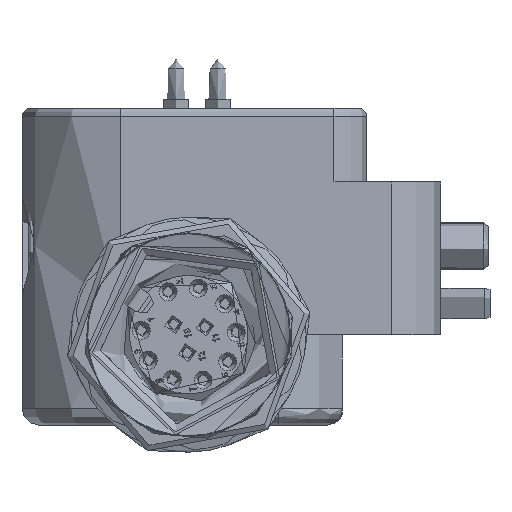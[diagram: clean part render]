
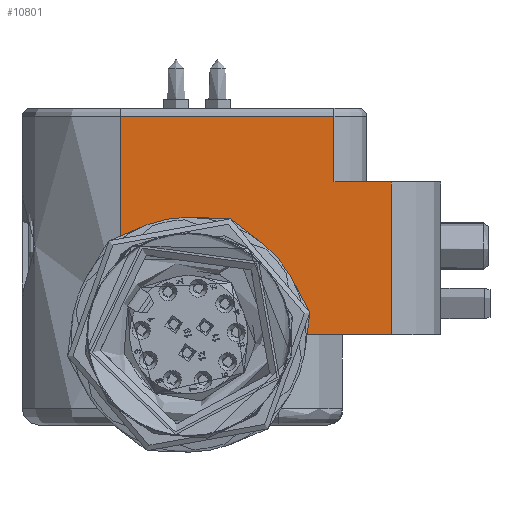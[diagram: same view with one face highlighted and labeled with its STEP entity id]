
A CAD part, left-side view. The second image highlights one B-rep face of the part: STEP entity #10801.
In plain terms, the highlighted planar face has unit normal (-1, 0, 0).
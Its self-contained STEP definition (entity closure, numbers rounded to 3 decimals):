
#1001=LINE('',#16172,#1699);
#1006=LINE('',#16200,#1704);
#1013=LINE('',#16247,#1711);
#1022=LINE('',#16265,#1720);
#1023=LINE('',#16269,#1721);
#1024=LINE('',#16274,#1722);
#1025=LINE('',#16276,#1723);
#1026=LINE('',#16278,#1724);
#1027=LINE('',#16279,#1725);
#1699=VECTOR('',#13035,10.);
#1704=VECTOR('',#13072,4.);
#1711=VECTOR('',#13127,10.);
#1720=VECTOR('',#13140,10.);
#1721=VECTOR('',#13145,10.);
#1722=VECTOR('',#13150,10.);
#1723=VECTOR('',#13151,10.);
#1724=VECTOR('',#13152,3.);
#1725=VECTOR('',#13153,10.);
#2410=FACE_OUTER_BOUND('',#3086,.T.);
#3086=EDGE_LOOP('',(#7322,#7323,#7324,#7325,#7326,#7327,#7328,#7329,#7330,
#7331,#7332));
#3824=CIRCLE('',#11638,4.4);
#3825=CIRCLE('',#11639,4.4);
#4331=VERTEX_POINT('',#16156);
#4335=VERTEX_POINT('',#16170);
#4342=VERTEX_POINT('',#16198);
#4343=VERTEX_POINT('',#16202);
#4358=VERTEX_POINT('',#16242);
#4365=VERTEX_POINT('',#16264);
#4366=VERTEX_POINT('',#16268);
#4367=VERTEX_POINT('',#16270);
#4368=VERTEX_POINT('',#16272);
#4369=VERTEX_POINT('',#16275);
#4370=VERTEX_POINT('',#16277);
#5435=EDGE_CURVE('',#4335,#4331,#1001,.T.);
#5449=EDGE_CURVE('',#4342,#4335,#1006,.T.);
#5472=EDGE_CURVE('',#4343,#4358,#1013,.T.);
#5481=EDGE_CURVE('',#4358,#4365,#1022,.T.);
#5483=EDGE_CURVE('',#4366,#4343,#1023,.T.);
#5484=EDGE_CURVE('',#4367,#4366,#3824,.T.);
#5485=EDGE_CURVE('',#4368,#4367,#3825,.T.);
#5486=EDGE_CURVE('',#4331,#4368,#1024,.T.);
#5487=EDGE_CURVE('',#4342,#4369,#1025,.T.);
#5488=EDGE_CURVE('',#4370,#4369,#1026,.T.);
#5489=EDGE_CURVE('',#4370,#4365,#1027,.T.);
#7322=ORIENTED_EDGE('',*,*,#5472,.F.);
#7323=ORIENTED_EDGE('',*,*,#5483,.F.);
#7324=ORIENTED_EDGE('',*,*,#5484,.F.);
#7325=ORIENTED_EDGE('',*,*,#5485,.F.);
#7326=ORIENTED_EDGE('',*,*,#5486,.F.);
#7327=ORIENTED_EDGE('',*,*,#5435,.F.);
#7328=ORIENTED_EDGE('',*,*,#5449,.F.);
#7329=ORIENTED_EDGE('',*,*,#5487,.T.);
#7330=ORIENTED_EDGE('',*,*,#5488,.F.);
#7331=ORIENTED_EDGE('',*,*,#5489,.T.);
#7332=ORIENTED_EDGE('',*,*,#5481,.F.);
#9809=PLANE('',#11637);
#10801=ADVANCED_FACE('',(#2410),#9809,.T.);
#11637=AXIS2_PLACEMENT_3D('',#16267,#13143,#13144);
#11638=AXIS2_PLACEMENT_3D('',#16271,#13146,#13147);
#11639=AXIS2_PLACEMENT_3D('',#16273,#13148,#13149);
#13035=DIRECTION('',(0.,1.,0.));
#13072=DIRECTION('',(0.,0.,-1.));
#13127=DIRECTION('',(0.,-1.,0.));
#13140=DIRECTION('',(0.,0.,-1.));
#13143=DIRECTION('center_axis',(-1.,0.,0.));
#13144=DIRECTION('ref_axis',(0.,0.,
1.));
#13145=DIRECTION('',(0.,0.,1.));
#13146=DIRECTION('center_axis',(-1.,0.,0.));
#13147=DIRECTION('ref_axis',(0.,0.,
-1.));
#13148=DIRECTION('center_axis',(-1.,0.,0.));
#13149=DIRECTION('ref_axis',(0.,0.,
-1.));
#13150=DIRECTION('',(0.,0.,1.));
#13151=DIRECTION('',(0.,-1.,0.));
#13152=DIRECTION('',(0.,0.,-1.));
#13153=DIRECTION('',(0.,1.,0.));
#16156=CARTESIAN_POINT('',(-19.,0.65,-4.5));
#16170=CARTESIAN_POINT('',(-19.,-8.999,-4.5));
#16172=CARTESIAN_POINT('',(-19.,-9.1,-4.5));
#16198=CARTESIAN_POINT('',(-19.,-8.999,0.));
#16200=CARTESIAN_POINT('',(-19.,-8.999,-5.5));
#16202=CARTESIAN_POINT('',(-19.,0.65,13.3));
#16242=CARTESIAN_POINT('',(-19.,-12.35,13.3));
#16247=CARTESIAN_POINT('',(-19.,-12.475,13.3));
#16264=CARTESIAN_POINT('',(-19.,-12.35,9.3));
#16265=CARTESIAN_POINT('',(-19.,-12.35,0.));
#16267=CARTESIAN_POINT('Origin',(-19.,-18.85,0.));
#16268=CARTESIAN_POINT('',(-19.,0.65,1.462));
#16269=CARTESIAN_POINT('',(-19.,0.65,0.));
#16270=CARTESIAN_POINT('',(-19.,-3.5,4.4));
#16271=CARTESIAN_POINT('Origin',(-19.,-3.5,0.));
#16272=CARTESIAN_POINT('',(-19.,0.65,-1.462));
#16273=CARTESIAN_POINT('Origin',(-19.,-3.5,0.));
#16274=CARTESIAN_POINT('',(-19.,0.65,-5.5));
#16275=CARTESIAN_POINT('',(-19.,-15.85,0.));
#16276=CARTESIAN_POINT('',(-19.,6.65,0.));
#16277=CARTESIAN_POINT('',(-19.,-15.85,9.3));
#16278=CARTESIAN_POINT('',(-19.,-15.85,0.));
#16279=CARTESIAN_POINT('',(-19.,-18.002,9.3));
